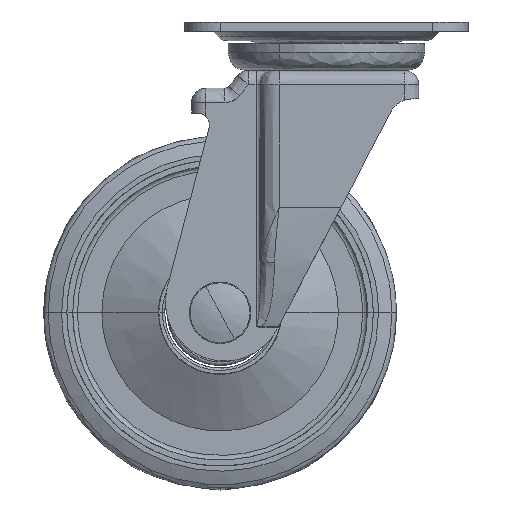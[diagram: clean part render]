
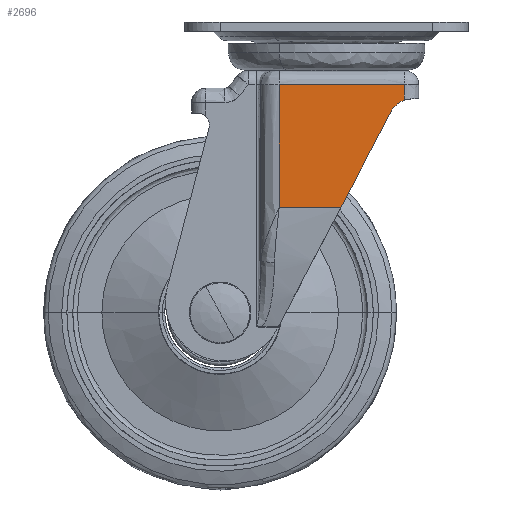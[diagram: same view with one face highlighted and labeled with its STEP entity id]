
A CAD part, front view. The second image highlights one B-rep face of the part: STEP entity #2696.
In plain terms, the highlighted planar face has unit normal (0, -1, 0).
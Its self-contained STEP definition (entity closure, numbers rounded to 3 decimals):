
#71 = VERTEX_POINT ( 'NONE', #80641 ) ;
#79 = VERTEX_POINT ( 'NONE', #80649 ) ;
#2696 = ADVANCED_FACE ( 'NONE', ( #59594 ), #6295, .F. ) ;
#3335 = ORIENTED_EDGE ( 'NONE', *, *, #90071, .T. ) ;
#3336 = ORIENTED_EDGE ( 'NONE', *, *, #89923, .F. ) ;
#3337 = ORIENTED_EDGE ( 'NONE', *, *, #89918, .F. ) ;
#3338 = ORIENTED_EDGE ( 'NONE', *, *, #30915, .F. ) ;
#3339 = ORIENTED_EDGE ( 'NONE', *, *, #30896, .F. ) ;
#3340 = ORIENTED_EDGE ( 'NONE', *, *, #89931, .F. ) ;
#6295 = PLANE ( 'NONE',  #70128 ) ;
#6545 = CARTESIAN_POINT ( 'NONE',  ( -20., -39., -78.385 ) ) ;
#6552 = DIRECTION ( 'NONE',  ( 0., 1., 0. ) ) ;
#6553 = DIRECTION ( 'NONE',  ( 0., 0., 1. ) ) ;
#12227 = CARTESIAN_POINT ( 'NONE',  ( 6.111, -39., -78.385 ) ) ;
#12232 = CARTESIAN_POINT ( 'NONE',  ( -2.592, -39., -78.385 ) ) ;
#12233 = CARTESIAN_POINT ( 'NONE',  ( -11.296, -39., -78.385 ) ) ;
#12234 = CARTESIAN_POINT ( 'NONE',  ( -20., -39., -78.385 ) ) ;
#12254 = CARTESIAN_POINT ( 'NONE',  ( -20., -39., -78.385 ) ) ;
#12255 = DIRECTION ( 'NONE',  ( 0., 0., 1. ) ) ;
#12285 = CARTESIAN_POINT ( 'NONE',  ( 33., -39., -78.385 ) ) ;
#12286 = DIRECTION ( 'NONE',  ( 0., 0., -1. ) ) ;
#14695 = B_SPLINE_CURVE_WITH_KNOTS ( 'NONE', 3,
 ( #12227, #12232, #12233, #12234 ),
 .UNSPECIFIED., .F., .F.,
 ( 4, 4 ),
 ( 0., 1. ),
 .UNSPECIFIED. ) ;
#17228 = CARTESIAN_POINT ( 'NONE',  ( -20., -39., -26.525 ) ) ;
#17230 = DIRECTION ( 'NONE',  ( -1., 0., 0. ) ) ;
#18411 = B_SPLINE_CURVE_WITH_KNOTS ( 'NONE', 3,
 ( #71809, #71823, #71824, #71825, #71826, #71827, #71828, #71829, #71830, #71831 ),
 .UNSPECIFIED., .F., .F.,
 ( 4, 3, 3, 4 ),
 ( -0.007, -0.005, 0., 0.001 ),
 .UNSPECIFIED. ) ;
#30896 = EDGE_CURVE ( 'NONE', #59227, #59228, #18411, .T. ) ;
#30915 = EDGE_CURVE ( 'NONE', #59228, #59234, #47692, .T. ) ;
#47692 = LINE ( 'NONE', #71859, #47697 ) ;
#47697 = VECTOR ( 'NONE', #71860, 1000. ) ;
#48235 = VECTOR ( 'NONE', #12255, 1000. ) ;
#48239 = LINE ( 'NONE', #12254, #48235 ) ;
#48247 = LINE ( 'NONE', #12285, #48249 ) ;
#48249 = VECTOR ( 'NONE', #12286, 1000. ) ;
#48318 = VECTOR ( 'NONE', #17230, 1000. ) ;
#48321 = LINE ( 'NONE', #17228, #48318 ) ;
#59227 = VERTEX_POINT ( 'NONE', #85239 ) ;
#59228 = VERTEX_POINT ( 'NONE', #85242 ) ;
#59234 = VERTEX_POINT ( 'NONE', #85259 ) ;
#59334 = VERTEX_POINT ( 'NONE', #85554 ) ;
#59594 = FACE_OUTER_BOUND ( 'NONE', #74452, .T. ) ;
#70128 = AXIS2_PLACEMENT_3D ( 'NONE', #6545, #6552, #6553 ) ;
#71809 = CARTESIAN_POINT ( 'NONE',  ( 33., -39., -33.049 ) ) ;
#71823 = CARTESIAN_POINT ( 'NONE',  ( 32.375, -39., -33.259 ) ) ;
#71824 = CARTESIAN_POINT ( 'NONE',  ( 31.77, -39., -33.532 ) ) ;
#71825 = CARTESIAN_POINT ( 'NONE',  ( 31.194, -39., -33.865 ) ) ;
#71826 = CARTESIAN_POINT ( 'NONE',  ( 29.674, -39., -34.742 ) ) ;
#71827 = CARTESIAN_POINT ( 'NONE',  ( 28.411, -39., -36.005 ) ) ;
#71828 = CARTESIAN_POINT ( 'NONE',  ( 27.533, -39., -37.525 ) ) ;
#71829 = CARTESIAN_POINT ( 'NONE',  ( 27.465, -39., -37.643 ) ) ;
#71830 = CARTESIAN_POINT ( 'NONE',  ( 27.4, -39., -37.763 ) ) ;
#71831 = CARTESIAN_POINT ( 'NONE',  ( 27.336, -39., -37.883 ) ) ;
#71859 = CARTESIAN_POINT ( 'NONE',  ( -20.943, -39., -130.01 ) ) ;
#71860 = DIRECTION ( 'NONE',  ( -0.464, 0., -0.886 ) ) ;
#74452 = EDGE_LOOP ( 'NONE', ( #3335, #3336, #3337, #3338, #3339, #3340 ) ) ;
#80641 = CARTESIAN_POINT ( 'NONE',  ( -20., -39., -26.525 ) ) ;
#80649 = CARTESIAN_POINT ( 'NONE',  ( 33., -39., -26.525 ) ) ;
#85239 = CARTESIAN_POINT ( 'NONE',  ( 33., -39., -33.049 ) ) ;
#85242 = CARTESIAN_POINT ( 'NONE',  ( 27.336, -39., -37.883 ) ) ;
#85259 = CARTESIAN_POINT ( 'NONE',  ( 6.111, -39., -78.385 ) ) ;
#85554 = CARTESIAN_POINT ( 'NONE',  ( -20., -39., -78.385 ) ) ;
#89918 = EDGE_CURVE ( 'NONE', #59234, #59334, #14695, .T. ) ;
#89923 = EDGE_CURVE ( 'NONE', #59334, #71, #48239, .T. ) ;
#89931 = EDGE_CURVE ( 'NONE', #79, #59227, #48247, .T. ) ;
#90071 = EDGE_CURVE ( 'NONE', #79, #71, #48321, .T. ) ;
